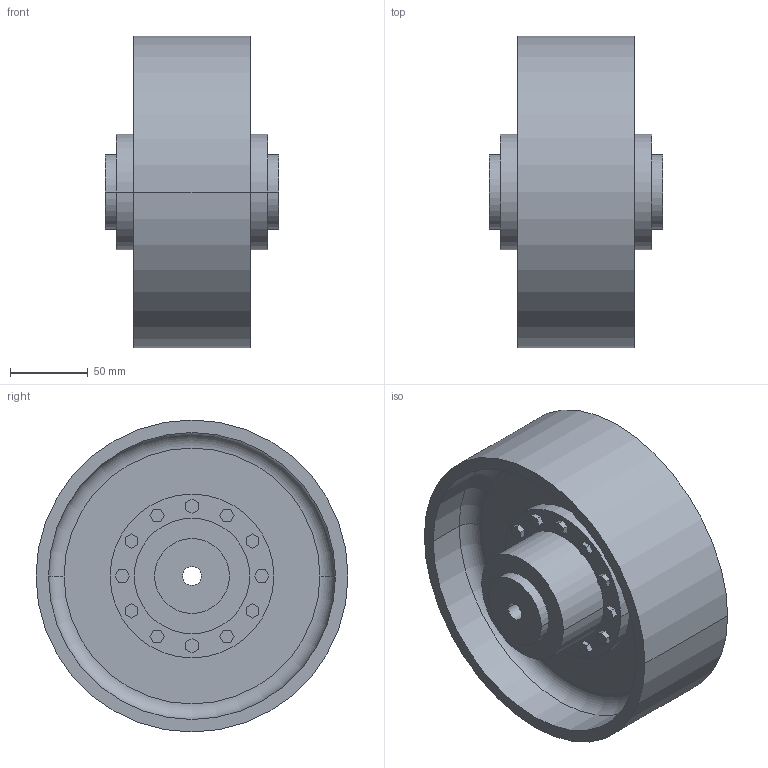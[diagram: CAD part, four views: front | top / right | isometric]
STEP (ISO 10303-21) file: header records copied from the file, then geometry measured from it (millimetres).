
FILE_DESCRIPTION((''),'2;1');
FILE_NAME('A19108700-0_ASM','2018-11-12T',('AB_Roschiwal'),('RENK AG'),'PRO/ENGINEER BY PARAMETRIC TECHNOLOGY CORPORATION, 2015440','PRO/ENGINEER BY PARAMETRIC TECHNOLOGY CORPORATION, 2015440','');
FILE_SCHEMA(('CONFIG_CONTROL_DESIGN'));
Length unit declared in the file: millimetre
Products named in the file (4): LBKD32_GEHAEUSE; LBKD32_NABE; LBKD32_BREMSSCHEIBE; A19108700-0_ASM
Assembly tree (4 placements, depth 2):
  A19108700-0_ASM
    LBKD32_GEHAEUSE
    LBKD32_NABE  x2
    LBKD32_BREMSSCHEIBE
Bounding box: 111 x 200 x 200 mm (x, y, z)
Volume: 1005744 mm3; surface area: 244601.2 mm2
Topology: 4 solids, 4 shells, 292 faces, 704 edges, 468 vertices
Faces by surface type: plane 200, cylinder 88, torus 4
Entity records: 8356 total; most frequent: DIRECTION 1424, CARTESIAN_POINT 1420, ORIENTED_EDGE 1360, EDGE_CURVE 680, VECTOR 512, LINE 512, AXIS2_PLACEMENT_3D 456, VERTEX_POINT 452
